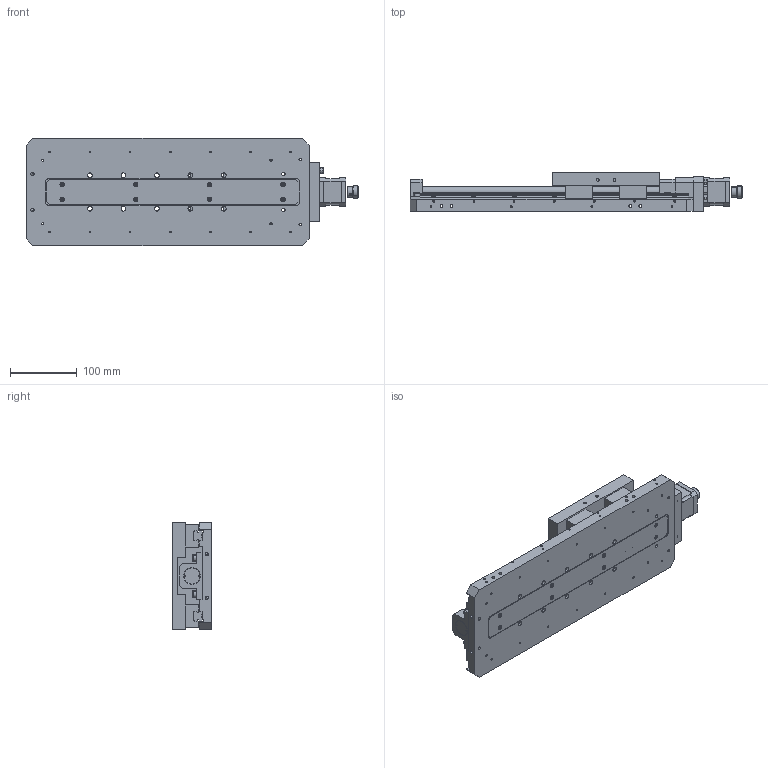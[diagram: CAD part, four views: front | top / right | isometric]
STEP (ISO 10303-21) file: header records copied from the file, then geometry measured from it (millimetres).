
FILE_DESCRIPTION (( 'STEP AP203' ), '1' );
FILE_NAME ('7STA02200A-0µç¶¯Æ½ÒÆÌ¨.STEP', '2015-05-27T01:12:27', ( '' ), ( '' ), 'SwSTEP 2.0', 'SolidWorks 2012', '' );
FILE_SCHEMA (( 'CONFIG_CONTROL_DESIGN' ));
Length unit declared in the file: millimetre
Products named in the file (1): 7STA02200A-0萇雄す痄怢
Bounding box: 496 x 58 x 160 mm (x, y, z)
Surface area: 359951.1 mm2 (no closed solid volume)
Topology: 0 solids, 96 shells, 1112 faces, 3750 edges, 2646 vertices
Faces by surface type: plane 546, cylinder 434, cone 64, torus 62, sphere 6
Entity records: 40967 total; most frequent: CARTESIAN_POINT 7786, DIRECTION 7284, ORIENTED_EDGE 5821, EDGE_CURVE 3694, VERTEX_POINT 2634, AXIS2_PLACEMENT_3D 2528, VECTOR 2228, LINE 2228
